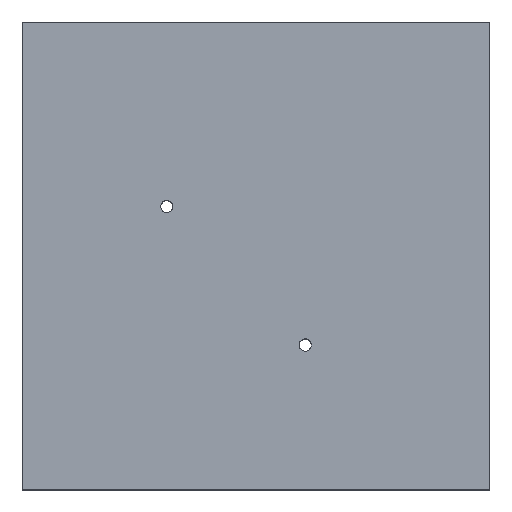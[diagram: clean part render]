
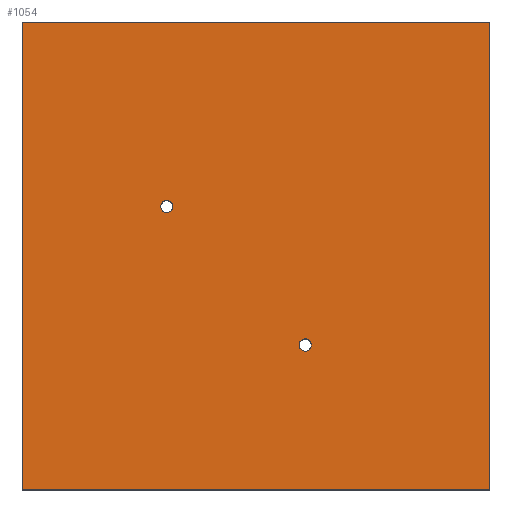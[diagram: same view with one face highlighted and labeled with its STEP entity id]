
A CAD part, top view. The second image highlights one B-rep face of the part: STEP entity #1054.
In plain terms, the highlighted planar face has unit normal (0, 0, 1).
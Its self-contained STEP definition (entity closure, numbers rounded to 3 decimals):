
#28 = ORIENTED_EDGE ( 'NONE', *, *, #392, .F. ) ;
#65 = CIRCLE ( 'NONE', #677, 1. ) ;
#71 = CARTESIAN_POINT ( 'NONE',  ( 7., -14.5, 22.5 ) ) ;
#87 = CIRCLE ( 'NONE', #766, 1. ) ;
#90 = VECTOR ( 'NONE', #1008, 1000. ) ;
#96 = CARTESIAN_POINT ( 'NONE',  ( 9., -14.5, 22.5 ) ) ;
#114 = PLANE ( 'NONE',  #504 ) ;
#126 = FACE_OUTER_BOUND ( 'NONE', #1308, .T. ) ;
#143 = CARTESIAN_POINT ( 'NONE',  ( -14.5, 8., 22.5 ) ) ;
#149 = DIRECTION ( 'NONE',  ( 1., 0., 0. ) ) ;
#155 = CARTESIAN_POINT ( 'NONE',  ( -14.5, 8., 22.5 ) ) ;
#168 = CARTESIAN_POINT ( 'NONE',  ( -13.5, 8., 22.5 ) ) ;
#177 = EDGE_CURVE ( 'NONE', #622, #1036, #1288, .T. ) ;
#212 = FACE_BOUND ( 'NONE', #308, .T. ) ;
#297 = DIRECTION ( 'NONE',  ( 0., 0., 1. ) ) ;
#308 = EDGE_LOOP ( 'NONE', ( #1028, #1168 ) ) ;
#353 = VERTEX_POINT ( 'NONE', #168 ) ;
#367 = EDGE_CURVE ( 'NONE', #353, #1227, #65, .T. ) ;
#390 = VECTOR ( 'NONE', #947, 1000. ) ;
#392 = EDGE_CURVE ( 'NONE', #1227, #353, #763, .T. ) ;
#404 = LINE ( 'NONE', #816, #90 ) ;
#444 = LINE ( 'NONE', #1279, #390 ) ;
#479 = EDGE_CURVE ( 'NONE', #823, #867, #87, .T. ) ;
#504 = AXIS2_PLACEMENT_3D ( 'NONE', #535, #546, #961 ) ;
#518 = ORIENTED_EDGE ( 'NONE', *, *, #579, .T. ) ;
#529 = CARTESIAN_POINT ( 'NONE',  ( -38., -38., 22.5 ) ) ;
#535 = CARTESIAN_POINT ( 'NONE',  ( 0., 0., 22.5 ) ) ;
#537 = CARTESIAN_POINT ( 'NONE',  ( -38., 38., 22.5 ) ) ;
#546 = DIRECTION ( 'NONE',  ( 0., 0., 1. ) ) ;
#563 = DIRECTION ( 'NONE',  ( 0., 0., 1. ) ) ;
#579 = EDGE_CURVE ( 'NONE', #1036, #1208, #728, .T. ) ;
#622 = VERTEX_POINT ( 'NONE', #537 ) ;
#657 = ORIENTED_EDGE ( 'NONE', *, *, #1274, .T. ) ;
#659 = DIRECTION ( 'NONE',  ( 0., -1., 0. ) ) ;
#663 = ORIENTED_EDGE ( 'NONE', *, *, #177, .T. ) ;
#677 = AXIS2_PLACEMENT_3D ( 'NONE', #155, #1195, #1007 ) ;
#679 = CARTESIAN_POINT ( 'NONE',  ( 8., -14.5, 22.5 ) ) ;
#716 = EDGE_CURVE ( 'NONE', #867, #823, #1269, .T. ) ;
#728 = LINE ( 'NONE', #846, #1006 ) ;
#763 = CIRCLE ( 'NONE', #1115, 1. ) ;
#766 = AXIS2_PLACEMENT_3D ( 'NONE', #918, #297, #1343 ) ;
#773 = DIRECTION ( 'NONE',  ( 1., 0., 0. ) ) ;
#780 = DIRECTION ( 'NONE',  ( 0., 0., 1. ) ) ;
#816 = CARTESIAN_POINT ( 'NONE',  ( -38., 38., 22.5 ) ) ;
#823 = VERTEX_POINT ( 'NONE', #96 ) ;
#844 = VERTEX_POINT ( 'NONE', #1123 ) ;
#846 = CARTESIAN_POINT ( 'NONE',  ( -38., -38., 22.5 ) ) ;
#861 = ORIENTED_EDGE ( 'NONE', *, *, #367, .F. ) ;
#867 = VERTEX_POINT ( 'NONE', #71 ) ;
#918 = CARTESIAN_POINT ( 'NONE',  ( 8., -14.5, 22.5 ) ) ;
#921 = CARTESIAN_POINT ( 'NONE',  ( -15.5, 8., 22.5 ) ) ;
#947 = DIRECTION ( 'NONE',  ( 0., 1., 0. ) ) ;
#961 = DIRECTION ( 'NONE',  ( 1., 0., 0. ) ) ;
#988 = ORIENTED_EDGE ( 'NONE', *, *, #1057, .T. ) ;
#1006 = VECTOR ( 'NONE', #1268, 1000. ) ;
#1007 = DIRECTION ( 'NONE',  ( 1., 0., 0. ) ) ;
#1008 = DIRECTION ( 'NONE',  ( -1., 0., 0. ) ) ;
#1028 = ORIENTED_EDGE ( 'NONE', *, *, #479, .F. ) ;
#1031 = EDGE_LOOP ( 'NONE', ( #861, #28 ) ) ;
#1036 = VERTEX_POINT ( 'NONE', #529 ) ;
#1054 = ADVANCED_FACE ( 'NONE', ( #1151, #212, #126 ), #114, .T. ) ;
#1057 = EDGE_CURVE ( 'NONE', #1208, #844, #444, .T. ) ;
#1081 = CARTESIAN_POINT ( 'NONE',  ( -38., 38., 22.5 ) ) ;
#1115 = AXIS2_PLACEMENT_3D ( 'NONE', #143, #563, #149 ) ;
#1123 = CARTESIAN_POINT ( 'NONE',  ( 38., 38., 22.5 ) ) ;
#1151 = FACE_BOUND ( 'NONE', #1031, .T. ) ;
#1168 = ORIENTED_EDGE ( 'NONE', *, *, #716, .F. ) ;
#1181 = VECTOR ( 'NONE', #659, 1000. ) ;
#1183 = AXIS2_PLACEMENT_3D ( 'NONE', #679, #780, #773 ) ;
#1195 = DIRECTION ( 'NONE',  ( 0., 0., 1. ) ) ;
#1208 = VERTEX_POINT ( 'NONE', #1218 ) ;
#1218 = CARTESIAN_POINT ( 'NONE',  ( 38., -38., 22.5 ) ) ;
#1227 = VERTEX_POINT ( 'NONE', #921 ) ;
#1268 = DIRECTION ( 'NONE',  ( 1., 0., 0. ) ) ;
#1269 = CIRCLE ( 'NONE', #1183, 1. ) ;
#1274 = EDGE_CURVE ( 'NONE', #844, #622, #404, .T. ) ;
#1279 = CARTESIAN_POINT ( 'NONE',  ( 38., 38., 22.5 ) ) ;
#1288 = LINE ( 'NONE', #1081, #1181 ) ;
#1308 = EDGE_LOOP ( 'NONE', ( #663, #518, #988, #657 ) ) ;
#1343 = DIRECTION ( 'NONE',  ( 1., 0., 0. ) ) ;
